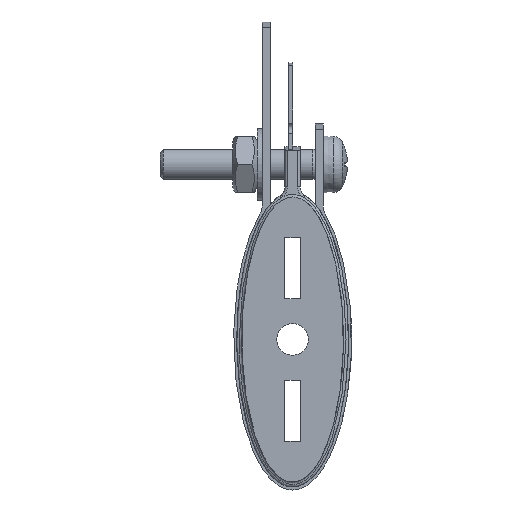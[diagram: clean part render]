
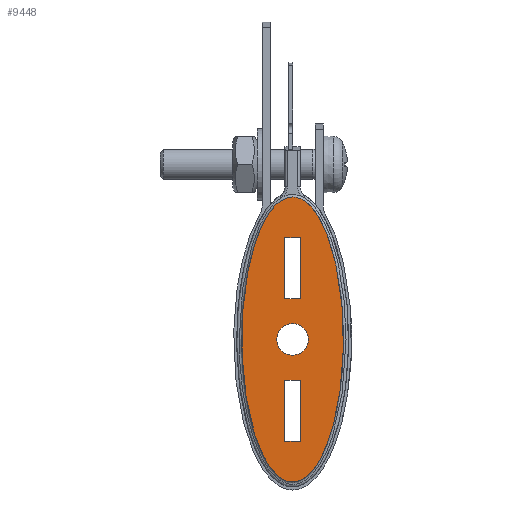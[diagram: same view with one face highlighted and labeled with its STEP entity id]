
A CAD part, front view. The second image highlights one B-rep face of the part: STEP entity #9448.
In plain terms, the highlighted planar face has unit normal (0, -1, 0).
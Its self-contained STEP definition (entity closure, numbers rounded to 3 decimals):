
#130=ELLIPSE($,#9868,14.,5.);
#1141=LINE($,#17872,#1870);
#1143=LINE($,#17877,#1872);
#1144=LINE($,#17879,#1873);
#1145=LINE($,#17881,#1874);
#1146=LINE($,#17882,#1875);
#1147=LINE($,#17884,#1876);
#1148=LINE($,#17886,#1877);
#1149=LINE($,#17887,#1878);
#1870=VECTOR($,#12675,6.);
#1872=VECTOR($,#12679,1.55);
#1873=VECTOR($,#12680,6.);
#1874=VECTOR($,#12681,1.55);
#1875=VECTOR($,#12682,6.);
#1876=VECTOR($,#12683,1.55);
#1877=VECTOR($,#12684,1.55);
#1878=VECTOR($,#12685,6.);
#2515=FACE_OUTER_BOUND($,#3216,.T.);
#2577=FACE_BOUND($,#3217,.T.);
#2578=FACE_BOUND($,#3218,.T.);
#2579=FACE_BOUND($,#3219,.T.);
#3216=EDGE_LOOP($,(#7712));
#3217=EDGE_LOOP($,(#7713));
#3218=EDGE_LOOP($,(#7714,#7715,#7716,#7717));
#3219=EDGE_LOOP($,(#7718,#7719,#7720,#7721));
#3402=CIRCLE($,#10291,1.55);
#3937=VERTEX_POINT($,#14857);
#4147=VERTEX_POINT($,#17863);
#4150=VERTEX_POINT($,#17869);
#4151=VERTEX_POINT($,#17871);
#4152=VERTEX_POINT($,#17875);
#4153=VERTEX_POINT($,#17876);
#4154=VERTEX_POINT($,#17878);
#4155=VERTEX_POINT($,#17880);
#4156=VERTEX_POINT($,#17883);
#4157=VERTEX_POINT($,#17885);
#4870=EDGE_CURVE($,#3937,#3937,#130,.T.);
#5346=EDGE_CURVE($,#4147,#4147,#3402,.T.);
#5349=EDGE_CURVE($,#4151,#4150,#1141,.T.);
#5351=EDGE_CURVE($,#4152,#4153,#1143,.T.);
#5352=EDGE_CURVE($,#4153,#4154,#1144,.T.);
#5353=EDGE_CURVE($,#4154,#4155,#1145,.T.);
#5354=EDGE_CURVE($,#4155,#4152,#1146,.T.);
#5355=EDGE_CURVE($,#4156,#4151,#1147,.T.);
#5356=EDGE_CURVE($,#4150,#4157,#1148,.T.);
#5357=EDGE_CURVE($,#4157,#4156,#1149,.T.);
#7712=ORIENTED_EDGE($,*,*,#4870,.T.);
#7713=ORIENTED_EDGE($,*,*,#5346,.T.);
#7714=ORIENTED_EDGE($,*,*,#5351,.T.);
#7715=ORIENTED_EDGE($,*,*,#5352,.T.);
#7716=ORIENTED_EDGE($,*,*,#5353,.T.);
#7717=ORIENTED_EDGE($,*,*,#5354,.T.);
#7718=ORIENTED_EDGE($,*,*,#5355,.T.);
#7719=ORIENTED_EDGE($,*,*,#5349,.T.);
#7720=ORIENTED_EDGE($,*,*,#5356,.T.);
#7721=ORIENTED_EDGE($,*,*,#5357,.T.);
#8310=PLANE($,#10293);
#9448=ADVANCED_FACE($,(#2515,#2577,#2578,#2579),#8310,.T.);
#9868=AXIS2_PLACEMENT_3D($,#14860,#11574,#11575);
#10291=AXIS2_PLACEMENT_3D($,#17864,#12669,#12670);
#10293=AXIS2_PLACEMENT_3D($,#17874,#12677,#12678);
#11574=DIRECTION('center_axis',(0.,-1.,0.));
#11575=DIRECTION('ref_axis',(0.,0.,
-1.));
#12669=DIRECTION('center_axis',(0.,1.,0.));
#12670=DIRECTION('ref_axis',(1.,0.,0.));
#12675=DIRECTION($,(0.,0.,1.));
#12677=DIRECTION('center_axis',(0.,-1.,0.));
#12678=DIRECTION('ref_axis',(0.,0.,-1.));
#12679=DIRECTION($,(1.,0.,0.));
#12680=DIRECTION($,(0.,0.,-1.));
#12681=DIRECTION($,(-1.,0.,0.));
#12682=DIRECTION($,(0.,0.,1.));
#12683=DIRECTION($,(-1.,0.,0.));
#12684=DIRECTION($,(1.,0.,0.));
#12685=DIRECTION($,(0.,0.,-1.));
#14857=CARTESIAN_POINT('',(0.,0.,
14.));
#14860=CARTESIAN_POINT('Origin',(0.,0.,0.));
#17863=CARTESIAN_POINT('',(-1.55,0.,0.));
#17864=CARTESIAN_POINT('Origin',(0.,0.,0.));
#17869=CARTESIAN_POINT('',(-0.775,0.,10.));
#17871=CARTESIAN_POINT('',(-0.775,0.,4.));
#17872=CARTESIAN_POINT($,(-0.775,0.,5.));
#17874=CARTESIAN_POINT('Origin',(0.,0.,0.));
#17875=CARTESIAN_POINT('',(-0.775,0.,-4.));
#17876=CARTESIAN_POINT('',(0.775,0.,-4.));
#17877=CARTESIAN_POINT($,(0.,0.,-4.));
#17878=CARTESIAN_POINT('',(0.775,0.,-10.));
#17879=CARTESIAN_POINT($,(0.775,0.,-5.));
#17880=CARTESIAN_POINT('',(-0.775,0.,-10.));
#17881=CARTESIAN_POINT($,(-0.388,0.,-10.));
#17882=CARTESIAN_POINT($,(-0.775,0.,-2.));
#17883=CARTESIAN_POINT('',(0.775,0.,4.));
#17884=CARTESIAN_POINT($,(0.,0.,4.));
#17885=CARTESIAN_POINT('',(0.775,0.,10.));
#17886=CARTESIAN_POINT($,(0.388,0.,10.));
#17887=CARTESIAN_POINT($,(0.775,0.,2.));
